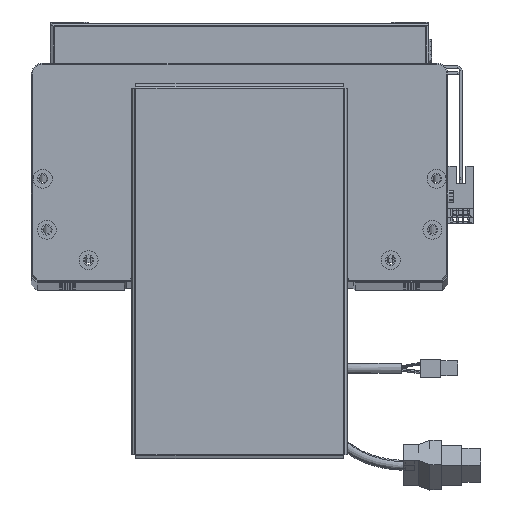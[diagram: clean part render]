
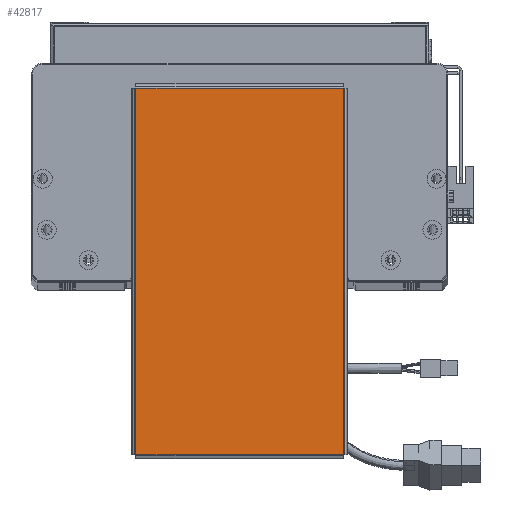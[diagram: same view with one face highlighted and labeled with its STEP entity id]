
A CAD part, top view. The second image highlights one B-rep face of the part: STEP entity #42817.
In plain terms, the highlighted planar face has unit normal (0, 0, 1).
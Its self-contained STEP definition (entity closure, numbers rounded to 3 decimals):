
#592 = VERTEX_POINT ( 'NONE', #43617 ) ;
#4259 = VERTEX_POINT ( 'NONE', #8572 ) ;
#5026 = DIRECTION ( 'NONE',  ( -1., 0., 0. ) ) ;
#7603 = CARTESIAN_POINT ( 'NONE',  ( -96.793, -54.763, 0. ) ) ;
#8572 = CARTESIAN_POINT ( 'NONE',  ( -96.763, -54.763, 0. ) ) ;
#15762 = VECTOR ( 'NONE', #41413, 1000. ) ;
#16451 = CARTESIAN_POINT ( 'NONE',  ( 96.763, -54.793, 0. ) ) ;
#18164 = VECTOR ( 'NONE', #21752, 1000. ) ;
#19314 = LINE ( 'NONE', #25178, #28895 ) ;
#20912 = LINE ( 'NONE', #7603, #15762 ) ;
#21752 = DIRECTION ( 'NONE',  ( 0., 1., 0. ) ) ;
#22091 = ORIENTED_EDGE ( 'NONE', *, *, #45797, .T. ) ;
#24737 = EDGE_CURVE ( 'NONE', #592, #68329, #44535, .T. ) ;
#25178 = CARTESIAN_POINT ( 'NONE',  ( -96.763, 54.793, 0. ) ) ;
#25383 = FACE_OUTER_BOUND ( 'NONE', #57108, .T. ) ;
#25717 = AXIS2_PLACEMENT_3D ( 'NONE', #38592, #60812, #49753 ) ;
#28625 = CARTESIAN_POINT ( 'NONE',  ( 96.763, -54.763, 0. ) ) ;
#28895 = VECTOR ( 'NONE', #40823, 1000. ) ;
#29947 = ORIENTED_EDGE ( 'NONE', *, *, #24737, .T. ) ;
#31825 = CARTESIAN_POINT ( 'NONE',  ( 96.793, 54.763, 0. ) ) ;
#32210 = CARTESIAN_POINT ( 'NONE',  ( -96.763, 54.763, 0. ) ) ;
#38592 = CARTESIAN_POINT ( 'NONE',  ( 0., 0., 0. ) ) ;
#40823 = DIRECTION ( 'NONE',  ( 0., -1., 0. ) ) ;
#41413 = DIRECTION ( 'NONE',  ( 1., 0., 0. ) ) ;
#42817 = ADVANCED_FACE ( 'NONE', ( #25383 ), #54469, .T. ) ;
#43617 = CARTESIAN_POINT ( 'NONE',  ( 96.763, 54.763, 0. ) ) ;
#44234 = EDGE_CURVE ( 'NONE', #4259, #54364, #20912, .T. ) ;
#44535 = LINE ( 'NONE', #31825, #62979 ) ;
#45797 = EDGE_CURVE ( 'NONE', #54364, #592, #57436, .T. ) ;
#49753 = DIRECTION ( 'NONE',  ( 1., 0., 0. ) ) ;
#54364 = VERTEX_POINT ( 'NONE', #28625 ) ;
#54469 = PLANE ( 'NONE',  #25717 ) ;
#57108 = EDGE_LOOP ( 'NONE', ( #69226, #22091, #29947, #71116 ) ) ;
#57436 = LINE ( 'NONE', #16451, #18164 ) ;
#60812 = DIRECTION ( 'NONE',  ( 0., 0., 1. ) ) ;
#62979 = VECTOR ( 'NONE', #5026, 1000. ) ;
#68329 = VERTEX_POINT ( 'NONE', #32210 ) ;
#69226 = ORIENTED_EDGE ( 'NONE', *, *, #44234, .T. ) ;
#71116 = ORIENTED_EDGE ( 'NONE', *, *, #71783, .T. ) ;
#71783 = EDGE_CURVE ( 'NONE', #68329, #4259, #19314, .T. ) ;
